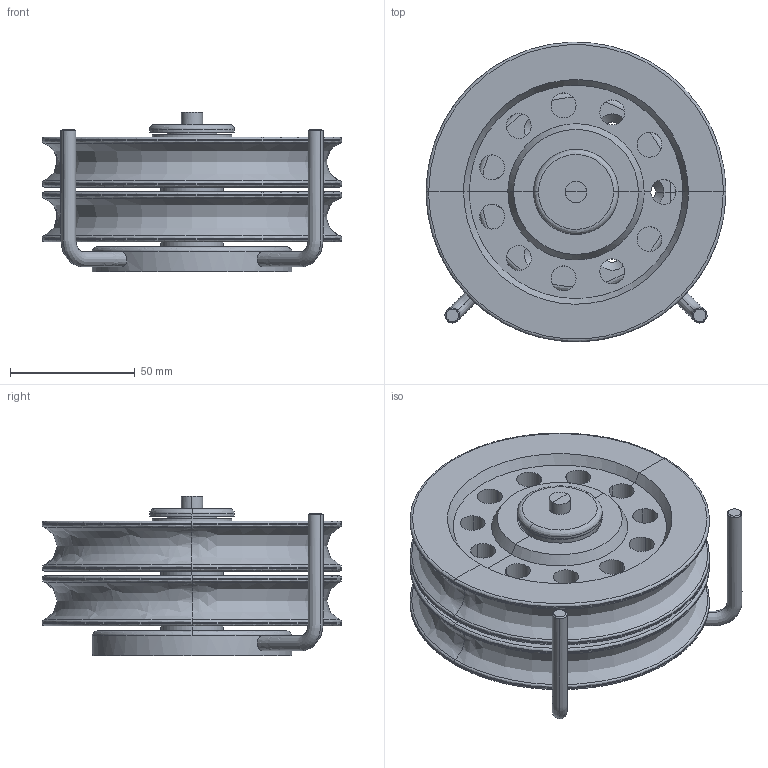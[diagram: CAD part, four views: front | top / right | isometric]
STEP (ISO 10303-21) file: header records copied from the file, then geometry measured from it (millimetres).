
FILE_DESCRIPTION(/* description */ (''),/* implementation_level */ '2;1');
FILE_NAME(/* name */ 'POULIE DOUBLE PLAT PONT D 120',/* time_stamp */ '2005-05-31T08:55:18+02:00',/* author */ (''),/* organization */ (''),/* preprocessor_version */ 'ST-DEVELOPER v8',/* originating_system */ '',/* authorisation */ '');
FILE_SCHEMA (('CONFIG_CONTROL_DESIGN'));
Length unit declared in the file: millimetre
Products named in the file (1): 1
Bounding box: 120 x 119.9 x 64 mm (x, y, z)
Volume: 326923.7 mm3; surface area: 107249.2 mm2
Topology: 13 solids, 14 shells, 309 faces, 701 edges, 397 vertices
Faces by surface type: bspline 309
Entity records: 12274 total; most frequent: CARTESIAN_POINT 8287, ORIENTED_EDGE 1382, EDGE_CURVE 692, VERTEX_POINT 417, EDGE_LOOP 367, ADVANCED_FACE 309, FACE_OUTER_BOUND 309, B_SPLINE_CURVE_WITH_KNOTS 304
